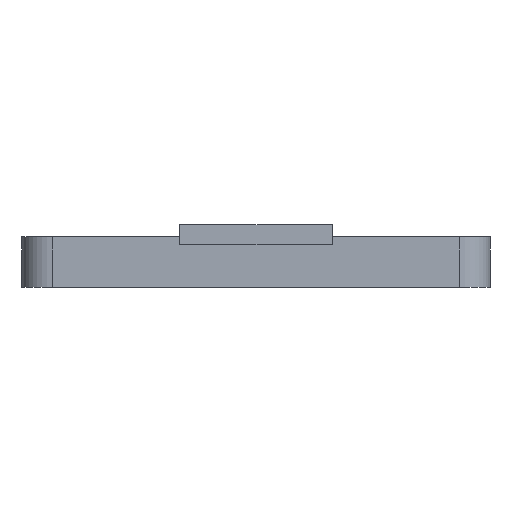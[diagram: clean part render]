
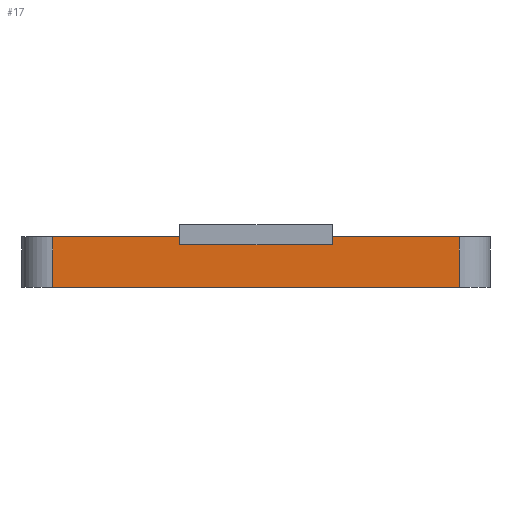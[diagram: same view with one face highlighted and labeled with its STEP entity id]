
A CAD part, left-side view. The second image highlights one B-rep face of the part: STEP entity #17.
In plain terms, the highlighted planar face has unit normal (-1, 0, 0).
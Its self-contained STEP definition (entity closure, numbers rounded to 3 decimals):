
#17 = ADVANCED_FACE('',(#18),#32,.F.);
#18 = FACE_BOUND('',#19,.F.);
#19 = EDGE_LOOP('',(#20,#55,#83,#111,#139,#162,#190,#218));
#20 = ORIENTED_EDGE('',*,*,#21,.F.);
#21 = EDGE_CURVE('',#22,#24,#26,.T.);
#22 = VERTEX_POINT('',#23);
#23 = CARTESIAN_POINT('',(-9.55,-28.178,8.95));
#24 = VERTEX_POINT('',#25);
#25 = CARTESIAN_POINT('',(-9.55,-24.028,8.95));
#26 = SURFACE_CURVE('',#27,(#31,#43),.PCURVE_S1.);
#27 = LINE('',#28,#29);
#28 = CARTESIAN_POINT('',(-9.55,-29.178,8.95));
#29 = VECTOR('',#30,1.);
#30 = DIRECTION('',(0.,1.,0.));
#31 = PCURVE('',#32,#37);
#32 = PLANE('',#33);
#33 = AXIS2_PLACEMENT_3D('',#34,#35,#36);
#34 = CARTESIAN_POINT('',(-9.55,-29.178,7.3));
#35 = DIRECTION('',(1.,0.,0.));
#36 = DIRECTION('',(0.,0.,1.));
#37 = DEFINITIONAL_REPRESENTATION('',(#38),#42);
#38 = LINE('',#39,#40);
#39 = CARTESIAN_POINT('',(1.65,0.));
#40 = VECTOR('',#41,1.);
#41 = DIRECTION('',(0.,-1.));
#42 = ( GEOMETRIC_REPRESENTATION_CONTEXT(2) 
PARAMETRIC_REPRESENTATION_CONTEXT() REPRESENTATION_CONTEXT('2D SPACE',''
  ) );
#43 = PCURVE('',#44,#49);
#44 = PLANE('',#45);
#45 = AXIS2_PLACEMENT_3D('',#46,#47,#48);
#46 = CARTESIAN_POINT('',(-9.55,-29.178,8.95));
#47 = DIRECTION('',(0.,0.,1.));
#48 = DIRECTION('',(1.,0.,-0.));
#49 = DEFINITIONAL_REPRESENTATION('',(#50),#54);
#50 = LINE('',#51,#52);
#51 = CARTESIAN_POINT('',(0.,0.));
#52 = VECTOR('',#53,1.);
#53 = DIRECTION('',(0.,1.));
#54 = ( GEOMETRIC_REPRESENTATION_CONTEXT(2) 
PARAMETRIC_REPRESENTATION_CONTEXT() REPRESENTATION_CONTEXT('2D SPACE',''
  ) );
#55 = ORIENTED_EDGE('',*,*,#56,.F.);
#56 = EDGE_CURVE('',#57,#22,#59,.T.);
#57 = VERTEX_POINT('',#58);
#58 = CARTESIAN_POINT('',(-9.55,-28.178,7.3));
#59 = SURFACE_CURVE('',#60,(#64,#71),.PCURVE_S1.);
#60 = LINE('',#61,#62);
#61 = CARTESIAN_POINT('',(-9.55,-28.178,7.3));
#62 = VECTOR('',#63,1.);
#63 = DIRECTION('',(0.,0.,1.));
#64 = PCURVE('',#32,#65);
#65 = DEFINITIONAL_REPRESENTATION('',(#66),#70);
#66 = LINE('',#67,#68);
#67 = CARTESIAN_POINT('',(0.,-1.));
#68 = VECTOR('',#69,1.);
#69 = DIRECTION('',(1.,0.));
#70 = ( GEOMETRIC_REPRESENTATION_CONTEXT(2) 
PARAMETRIC_REPRESENTATION_CONTEXT() REPRESENTATION_CONTEXT('2D SPACE',''
  ) );
#71 = PCURVE('',#72,#77);
#72 = CYLINDRICAL_SURFACE('',#73,1.);
#73 = AXIS2_PLACEMENT_3D('',#74,#75,#76);
#74 = CARTESIAN_POINT('',(-8.55,-28.178,7.3));
#75 = DIRECTION('',(0.,0.,1.));
#76 = DIRECTION('',(-1.,-0.,0.));
#77 = DEFINITIONAL_REPRESENTATION('',(#78),#82);
#78 = LINE('',#79,#80);
#79 = CARTESIAN_POINT('',(0.,0.));
#80 = VECTOR('',#81,1.);
#81 = DIRECTION('',(0.,1.));
#82 = ( GEOMETRIC_REPRESENTATION_CONTEXT(2) 
PARAMETRIC_REPRESENTATION_CONTEXT() REPRESENTATION_CONTEXT('2D SPACE',''
  ) );
#83 = ORIENTED_EDGE('',*,*,#84,.T.);
#84 = EDGE_CURVE('',#57,#85,#87,.T.);
#85 = VERTEX_POINT('',#86);
#86 = CARTESIAN_POINT('',(-9.55,-14.878,7.3));
#87 = SURFACE_CURVE('',#88,(#92,#99),.PCURVE_S1.);
#88 = LINE('',#89,#90);
#89 = CARTESIAN_POINT('',(-9.55,-29.178,7.3));
#90 = VECTOR('',#91,1.);
#91 = DIRECTION('',(0.,1.,0.));
#92 = PCURVE('',#32,#93);
#93 = DEFINITIONAL_REPRESENTATION('',(#94),#98);
#94 = LINE('',#95,#96);
#95 = CARTESIAN_POINT('',(0.,0.));
#96 = VECTOR('',#97,1.);
#97 = DIRECTION('',(0.,-1.));
#98 = ( GEOMETRIC_REPRESENTATION_CONTEXT(2) 
PARAMETRIC_REPRESENTATION_CONTEXT() REPRESENTATION_CONTEXT('2D SPACE',''
  ) );
#99 = PCURVE('',#100,#105);
#100 = PLANE('',#101);
#101 = AXIS2_PLACEMENT_3D('',#102,#103,#104);
#102 = CARTESIAN_POINT('',(-9.55,-29.178,7.3));
#103 = DIRECTION('',(0.,0.,1.));
#104 = DIRECTION('',(1.,0.,-0.));
#105 = DEFINITIONAL_REPRESENTATION('',(#106),#110);
#106 = LINE('',#107,#108);
#107 = CARTESIAN_POINT('',(0.,0.));
#108 = VECTOR('',#109,1.);
#109 = DIRECTION('',(0.,1.));
#110 = ( GEOMETRIC_REPRESENTATION_CONTEXT(2) 
PARAMETRIC_REPRESENTATION_CONTEXT() REPRESENTATION_CONTEXT('2D SPACE',''
  ) );
#111 = ORIENTED_EDGE('',*,*,#112,.T.);
#112 = EDGE_CURVE('',#85,#113,#115,.T.);
#113 = VERTEX_POINT('',#114);
#114 = CARTESIAN_POINT('',(-9.55,-14.878,8.95));
#115 = SURFACE_CURVE('',#116,(#120,#127),.PCURVE_S1.);
#116 = LINE('',#117,#118);
#117 = CARTESIAN_POINT('',(-9.55,-14.878,7.3));
#118 = VECTOR('',#119,1.);
#119 = DIRECTION('',(0.,0.,1.));
#120 = PCURVE('',#32,#121);
#121 = DEFINITIONAL_REPRESENTATION('',(#122),#126);
#122 = LINE('',#123,#124);
#123 = CARTESIAN_POINT('',(0.,-14.3));
#124 = VECTOR('',#125,1.);
#125 = DIRECTION('',(1.,0.));
#126 = ( GEOMETRIC_REPRESENTATION_CONTEXT(2) 
PARAMETRIC_REPRESENTATION_CONTEXT() REPRESENTATION_CONTEXT('2D SPACE',''
  ) );
#127 = PCURVE('',#128,#133);
#128 = CYLINDRICAL_SURFACE('',#129,1.);
#129 = AXIS2_PLACEMENT_3D('',#130,#131,#132);
#130 = CARTESIAN_POINT('',(-8.55,-14.878,7.3));
#131 = DIRECTION('',(0.,0.,1.));
#132 = DIRECTION('',(-1.,-0.,0.));
#133 = DEFINITIONAL_REPRESENTATION('',(#134),#138);
#134 = LINE('',#135,#136);
#135 = CARTESIAN_POINT('',(6.283,0.));
#136 = VECTOR('',#137,1.);
#137 = DIRECTION('',(-0.,1.));
#138 = ( GEOMETRIC_REPRESENTATION_CONTEXT(2) 
PARAMETRIC_REPRESENTATION_CONTEXT() REPRESENTATION_CONTEXT('2D SPACE',''
  ) );
#139 = ORIENTED_EDGE('',*,*,#140,.F.);
#140 = EDGE_CURVE('',#141,#113,#143,.T.);
#141 = VERTEX_POINT('',#142);
#142 = CARTESIAN_POINT('',(-9.55,-19.028,8.95));
#143 = SURFACE_CURVE('',#144,(#148,#155),.PCURVE_S1.);
#144 = LINE('',#145,#146);
#145 = CARTESIAN_POINT('',(-9.55,-19.028,8.95));
#146 = VECTOR('',#147,1.);
#147 = DIRECTION('',(0.,1.,0.));
#148 = PCURVE('',#32,#149);
#149 = DEFINITIONAL_REPRESENTATION('',(#150),#154);
#150 = LINE('',#151,#152);
#151 = CARTESIAN_POINT('',(1.65,-10.15));
#152 = VECTOR('',#153,1.);
#153 = DIRECTION('',(0.,-1.));
#154 = ( GEOMETRIC_REPRESENTATION_CONTEXT(2) 
PARAMETRIC_REPRESENTATION_CONTEXT() REPRESENTATION_CONTEXT('2D SPACE',''
  ) );
#155 = PCURVE('',#44,#156);
#156 = DEFINITIONAL_REPRESENTATION('',(#157),#161);
#157 = LINE('',#158,#159);
#158 = CARTESIAN_POINT('',(0.,10.15));
#159 = VECTOR('',#160,1.);
#160 = DIRECTION('',(0.,1.));
#161 = ( GEOMETRIC_REPRESENTATION_CONTEXT(2) 
PARAMETRIC_REPRESENTATION_CONTEXT() REPRESENTATION_CONTEXT('2D SPACE',''
  ) );
#162 = ORIENTED_EDGE('',*,*,#163,.F.);
#163 = EDGE_CURVE('',#164,#141,#166,.T.);
#164 = VERTEX_POINT('',#165);
#165 = CARTESIAN_POINT('',(-9.55,-19.028,8.7));
#166 = SURFACE_CURVE('',#167,(#171,#178),.PCURVE_S1.);
#167 = LINE('',#168,#169);
#168 = CARTESIAN_POINT('',(-9.55,-19.028,8.));
#169 = VECTOR('',#170,1.);
#170 = DIRECTION('',(0.,0.,1.));
#171 = PCURVE('',#32,#172);
#172 = DEFINITIONAL_REPRESENTATION('',(#173),#177);
#173 = LINE('',#174,#175);
#174 = CARTESIAN_POINT('',(0.7,-10.15));
#175 = VECTOR('',#176,1.);
#176 = DIRECTION('',(1.,0.));
#177 = ( GEOMETRIC_REPRESENTATION_CONTEXT(2) 
PARAMETRIC_REPRESENTATION_CONTEXT() REPRESENTATION_CONTEXT('2D SPACE',''
  ) );
#178 = PCURVE('',#179,#184);
#179 = PLANE('',#180);
#180 = AXIS2_PLACEMENT_3D('',#181,#182,#183);
#181 = CARTESIAN_POINT('',(-12.5,-19.028,8.7));
#182 = DIRECTION('',(0.,1.,0.));
#183 = DIRECTION('',(0.,-0.,1.));
#184 = DEFINITIONAL_REPRESENTATION('',(#185),#189);
#185 = LINE('',#186,#187);
#186 = CARTESIAN_POINT('',(-0.7,2.95));
#187 = VECTOR('',#188,1.);
#188 = DIRECTION('',(1.,0.));
#189 = ( GEOMETRIC_REPRESENTATION_CONTEXT(2) 
PARAMETRIC_REPRESENTATION_CONTEXT() REPRESENTATION_CONTEXT('2D SPACE',''
  ) );
#190 = ORIENTED_EDGE('',*,*,#191,.T.);
#191 = EDGE_CURVE('',#164,#192,#194,.T.);
#192 = VERTEX_POINT('',#193);
#193 = CARTESIAN_POINT('',(-9.55,-24.028,8.7));
#194 = SURFACE_CURVE('',#195,(#199,#206),.PCURVE_S1.);
#195 = LINE('',#196,#197);
#196 = CARTESIAN_POINT('',(-9.55,-26.603,8.7));
#197 = VECTOR('',#198,1.);
#198 = DIRECTION('',(0.,-1.,0.));
#199 = PCURVE('',#32,#200);
#200 = DEFINITIONAL_REPRESENTATION('',(#201),#205);
#201 = LINE('',#202,#203);
#202 = CARTESIAN_POINT('',(1.4,-2.575));
#203 = VECTOR('',#204,1.);
#204 = DIRECTION('',(0.,1.));
#205 = ( GEOMETRIC_REPRESENTATION_CONTEXT(2) 
PARAMETRIC_REPRESENTATION_CONTEXT() REPRESENTATION_CONTEXT('2D SPACE',''
  ) );
#206 = PCURVE('',#207,#212);
#207 = PLANE('',#208);
#208 = AXIS2_PLACEMENT_3D('',#209,#210,#211);
#209 = CARTESIAN_POINT('',(-12.5,-24.028,8.7));
#210 = DIRECTION('',(0.,0.,1.));
#211 = DIRECTION('',(1.,0.,-0.));
#212 = DEFINITIONAL_REPRESENTATION('',(#213),#217);
#213 = LINE('',#214,#215);
#214 = CARTESIAN_POINT('',(2.95,-2.575));
#215 = VECTOR('',#216,1.);
#216 = DIRECTION('',(0.,-1.));
#217 = ( GEOMETRIC_REPRESENTATION_CONTEXT(2) 
PARAMETRIC_REPRESENTATION_CONTEXT() REPRESENTATION_CONTEXT('2D SPACE',''
  ) );
#218 = ORIENTED_EDGE('',*,*,#219,.T.);
#219 = EDGE_CURVE('',#192,#24,#220,.T.);
#220 = SURFACE_CURVE('',#221,(#225,#232),.PCURVE_S1.);
#221 = LINE('',#222,#223);
#222 = CARTESIAN_POINT('',(-9.55,-24.028,8.));
#223 = VECTOR('',#224,1.);
#224 = DIRECTION('',(0.,0.,1.));
#225 = PCURVE('',#32,#226);
#226 = DEFINITIONAL_REPRESENTATION('',(#227),#231);
#227 = LINE('',#228,#229);
#228 = CARTESIAN_POINT('',(0.7,-5.15));
#229 = VECTOR('',#230,1.);
#230 = DIRECTION('',(1.,0.));
#231 = ( GEOMETRIC_REPRESENTATION_CONTEXT(2) 
PARAMETRIC_REPRESENTATION_CONTEXT() REPRESENTATION_CONTEXT('2D SPACE',''
  ) );
#232 = PCURVE('',#233,#238);
#233 = PLANE('',#234);
#234 = AXIS2_PLACEMENT_3D('',#235,#236,#237);
#235 = CARTESIAN_POINT('',(-12.5,-24.028,8.7));
#236 = DIRECTION('',(0.,1.,0.));
#237 = DIRECTION('',(0.,-0.,1.));
#238 = DEFINITIONAL_REPRESENTATION('',(#239),#243);
#239 = LINE('',#240,#241);
#240 = CARTESIAN_POINT('',(-0.7,2.95));
#241 = VECTOR('',#242,1.);
#242 = DIRECTION('',(1.,0.));
#243 = ( GEOMETRIC_REPRESENTATION_CONTEXT(2) 
PARAMETRIC_REPRESENTATION_CONTEXT() REPRESENTATION_CONTEXT('2D SPACE',''
  ) );
